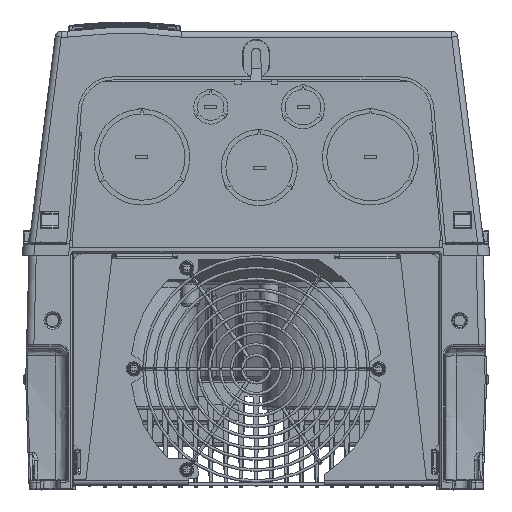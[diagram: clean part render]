
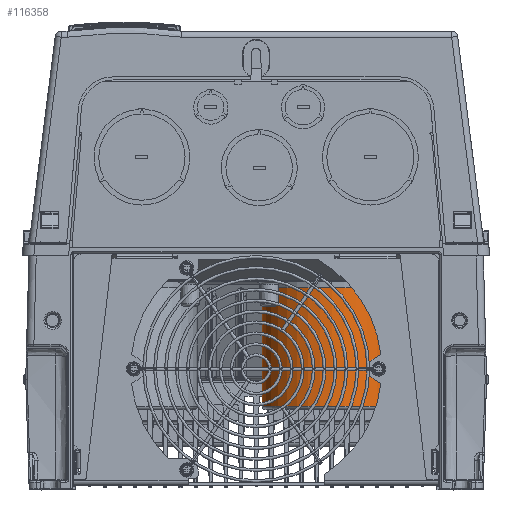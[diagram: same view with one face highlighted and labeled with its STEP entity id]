
A CAD part, front view. The second image highlights one B-rep face of the part: STEP entity #116358.
In plain terms, the highlighted cylindrical face has radius 46.1 mm (diameter 92.2 mm), a partial arc.
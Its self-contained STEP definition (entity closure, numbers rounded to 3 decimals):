
#18930=CARTESIAN_POINT('',(50.,-201.5,-104.813));
#18931=DIRECTION('',(0.,0.,1.));
#18932=DIRECTION('',(-1.,0.,0.));
#18933=AXIS2_PLACEMENT_3D('',#18930,#18931,#18932);
#18935=CARTESIAN_POINT('',(50.,-201.5,-26.2));
#18936=DIRECTION('',(0.,0.,-1.));
#18937=DIRECTION('',(0.,-1.,0.));
#18938=AXIS2_PLACEMENT_3D('',#18935,#18936,#18937);
#18940=CARTESIAN_POINT('',(50.,-201.5,-26.2));
#18941=DIRECTION('',(0.,0.,-1.));
#18942=DIRECTION('',(1.,0.,0.));
#18943=AXIS2_PLACEMENT_3D('',#18940,#18941,#18942);
#18945=DIRECTION('',(0.,0.,-1.));
#18946=VECTOR('',#18945,78.613);
#18947=CARTESIAN_POINT('',(96.1,-201.5,-26.2));
#18948=LINE('',#18947,#18946);
#18974=DIRECTION('',(0.,0.,-1.));
#18975=VECTOR('',#18974,78.613);
#18976=CARTESIAN_POINT('',(3.9,-201.5,-26.2));
#18977=LINE('',#18976,#18975);
#77734=CARTESIAN_POINT('',(96.1,-201.5,-26.2));
#77735=CARTESIAN_POINT('',(50.,-247.6,-26.2));
#77736=VERTEX_POINT('',#77734);
#77737=VERTEX_POINT('',#77735);
#77738=CARTESIAN_POINT('',(3.9,-201.5,-26.2));
#77739=VERTEX_POINT('',#77738);
#77768=CARTESIAN_POINT('',(96.1,-201.5,-104.813));
#77769=CARTESIAN_POINT('',(3.9,-201.5,-104.813));
#77770=VERTEX_POINT('',#77768);
#77771=VERTEX_POINT('',#77769);
#116342=CARTESIAN_POINT('',(50.,-201.5,3.));
#116343=DIRECTION('',(0.,0.,-1.));
#116344=DIRECTION('',(1.,0.,0.));
#116345=AXIS2_PLACEMENT_3D('',#116342,#116343,#116344);
#116346=CYLINDRICAL_SURFACE('',#116345,46.1);
#116348=ORIENTED_EDGE('',*,*,#116347,.F.);
#116350=ORIENTED_EDGE('',*,*,#116349,.F.);
#116351=ORIENTED_EDGE('',*,*,#116330,.F.);
#116353=ORIENTED_EDGE('',*,*,#116352,.F.);
#116355=ORIENTED_EDGE('',*,*,#116354,.T.);
#116356=EDGE_LOOP('',(#116348,#116350,#116351,#116353,#116355));
#116357=FACE_OUTER_BOUND('',#116356,.F.);
#18934=CIRCLE('',#18933,46.1);
#18939=CIRCLE('',#18938,46.1);
#18944=CIRCLE('',#18943,46.1);
#116330=EDGE_CURVE('',#77737,#77739,#18939,.T.);
#116347=EDGE_CURVE('',#77771,#77770,#18934,.T.);
#116349=EDGE_CURVE('',#77739,#77771,#18977,.T.);
#116352=EDGE_CURVE('',#77736,#77737,#18944,.T.);
#116354=EDGE_CURVE('',#77736,#77770,#18948,.T.);
#116358=ADVANCED_FACE('',(#116357),#116346,.T.);
